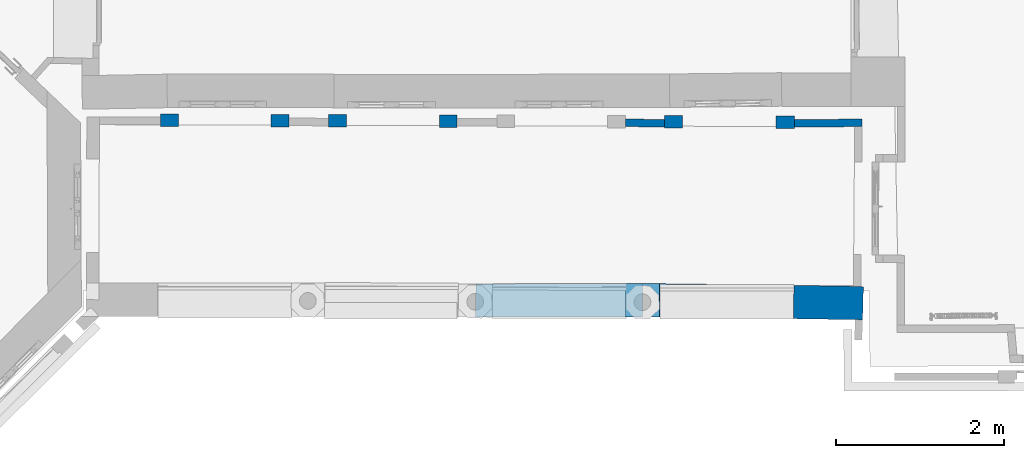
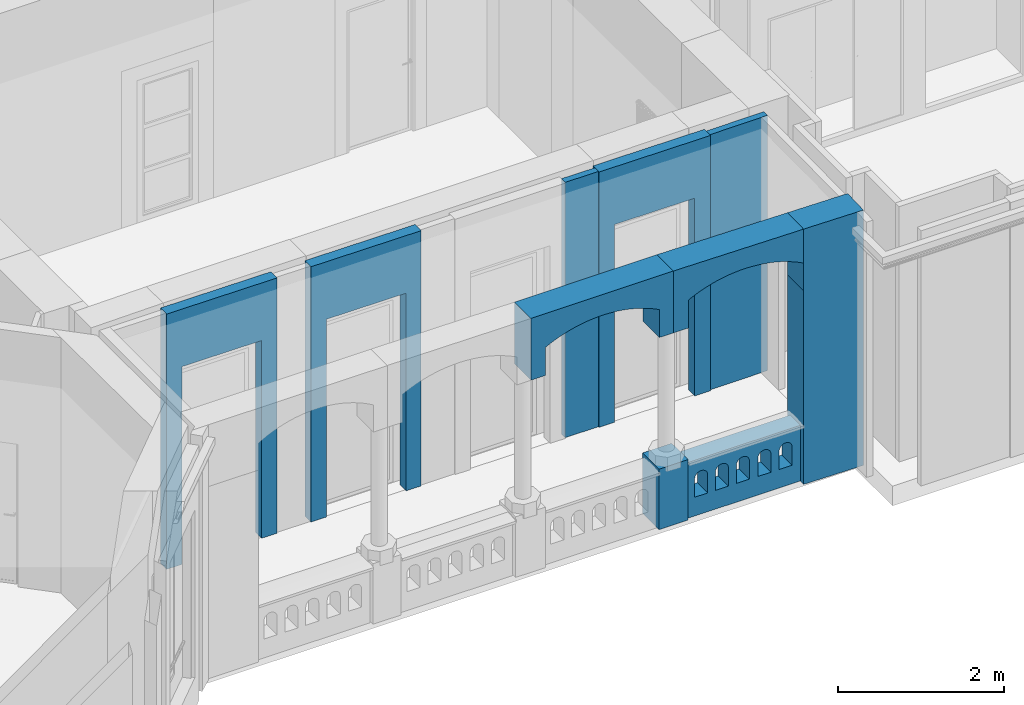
# One storey, part 6 of 66: 10 walls, 10 openings.
"""IFC2X3 building model written with IfcOpenShell, lengths in centimetres."""

from ifc_helpers import new_model, entity, si_unit, converted_unit, point, direction, frame, frame_2d, origin, origin_with_axes, origin_2d_with_axis, place, context, subcontext, project, spatial, polyline, circle_curve, trimmed, segment, composite_curve, rectangle, outline, extrude, clip, bounded_halfspace, shape, material, layer, layer_set, layer_usage, type_object, element, save


model = new_model("IFC2X3")

# Units and contexts
model_context = context("Model", 3, precision=0.0001, world=origin(), true_north=direction((0.225632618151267, 0.974212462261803, 0.0)))
body_context = subcontext(model_context, "Body", "Model", "MODEL_VIEW")
footprint_context = subcontext(model_context, "FootPrint", "Model", "MODEL_VIEW")
profile_context = subcontext(model_context, "Profile", "Model", "MODEL_VIEW")
ifc_project = project(units=[si_unit("LENGTHUNIT", "METRE", prefix="CENTI"), si_unit("AREAUNIT", "SQUARE_METRE", prefix="CENTI"), si_unit("VOLUMEUNIT", "CUBIC_METRE", prefix="CENTI"), converted_unit("PLANEANGLEUNIT", "DEGREE", entity("IfcRatioMeasure", 0.0174532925), si_unit("PLANEANGLEUNIT", "RADIAN"), dimensions=[0, 0, 0, 0, 0, 0, 0])], contexts=[model_context])

# Site, building, storey
site_placement = place(None, origin_with_axes())
site = spatial("IfcSite", under=ifc_project, at=site_placement, Name="Default Site", CompositionType="ELEMENT")
building_placement = place(site_placement, origin_with_axes())
building = spatial("IfcBuilding", under=site, at=building_placement, Name="Default Building", CompositionType="ELEMENT")
storey_placement = place(building_placement, frame((0.0, 0.0, 477.795358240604), z_axis=(0.0, 0.0, 1.0), x_axis=(1.0, 0.0, 0.0)))
storey = spatial("IfcBuildingStorey", under=building, at=storey_placement, Name="Niveau 1", CompositionType="ELEMENT", Elevation=477.795358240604)

# Wall
ifc_material = material(Name="<aucun>")
ifc_layer_1 = layer(ifc_material, 39.8)
ifc_layer_set_1 = layer_set([ifc_layer_1], Name="default")
ifc_layer_usage_1 = layer_usage(ifc_layer_set_1, "AXIS2", "POSITIVE", -19.9)
wall_type_1 = type_object("IfcWallType", Name="default 398", PredefinedType="NOTDEFINED", material=ifc_layer_set_1)
wall_1_placement = place(storey_placement, frame((242.59223032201, -954.923629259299, 0.0128503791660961), z_axis=(0.0, 0.0, 1.0), x_axis=(-0.999867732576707, 0.0162639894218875, 0.0)))
element("IfcWallStandardCase", 1, at=wall_1_placement, inside=storey, type_object=wall_type_1, material=ifc_layer_usage_1, Name="Enveloppe 449511", context=body_context, shape_type="SweptSolid", body=[
    extrude(outline(polyline([(73.5764492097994, 19.8999999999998), (-9.02079282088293, 19.8999999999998), (-9.40243659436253, -19.523567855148), (-6.26328268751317, -19.5539567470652), (-6.26064006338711, -19.9), (73.5764492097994, -19.9), (73.5764492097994, 19.8999999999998)])), frame((0.0, 0.0, -2.66453525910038e-13), z_axis=(0.0, 0.0, 1.0), x_axis=(1.0, 0.0, 0.0)), (0.0, 0.0, 1.0), 376.102165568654),
])

# Wall, opening
ifc_layer_usage_2 = layer_usage(ifc_layer_set_1, "AXIS2", "POSITIVE", -19.9)
wall_2_placement = place(storey_placement, frame((-210.275214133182, -951.945610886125, 285.0), z_axis=(0.0, 0.0, 1.0), x_axis=(0.999997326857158, 0.00231220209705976, 0.0)))
wall_2 = element("IfcWallStandardCase", 2, at=wall_2_placement, inside=storey, type_object=wall_type_1, material=ifc_layer_usage_2, Name="Enveloppe 442124", context=body_context, shape_type="SweptSolid", body=[
    extrude(outline(polyline([(-0.139279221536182, -19.8990241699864), (198.90687949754, -19.8999999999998), (198.90687949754, 19.9000000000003), (0.139564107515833, 19.9000000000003), (-0.139279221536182, -19.8990241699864)])), frame((0.0, 0.0, 2.66453525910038e-13), z_axis=(0.0, 0.0, 1.0), x_axis=(1.0, 0.0, 0.0)), (0.0, 0.0, 1.0), 91.1150159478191),
])
opening_1_placement = place(wall_2_placement, frame((20.0758893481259, 0.0, 0.0), z_axis=(0.0, 0.0, 1.0), x_axis=(1.0, -5.8416813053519e-16, 0.0)))
cartesian_point_1 = entity("IfcCartesianPoint", [0.0, 0.0, 41.2107423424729])
cartesian_point_2 = entity("IfcCartesianPoint", [159.18370357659, 0.0, 41.2107423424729])
cartesian_point_3 = entity("IfcCartesianPoint", [159.18370357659, 19.9])
element("IfcOpeningElement", 3, at=opening_1_placement, cuts=wall_2, Name="Baie 442171", ObjectType="Opening", shapes=[
    shape(body_context, "Body", "SweptSolid", [extrude(outline(composite_curve([segment(polyline([(-2.22044604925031e-14, 41.2107423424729), (-2.22044604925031e-14, 8.88178419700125e-14), (159.18370357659, 8.88178419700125e-14), (159.18370357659, 41.2107423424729)]), True, "CONTINUOUS"), segment(trimmed(circle_curve(frame_2d((79.5918517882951, -111.07221367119), x_axis=(1.0, 0.0)), 171.828290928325), [point((159.18370357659, 41.2107423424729))], [point((-2.22044604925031e-14, 41.2107423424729))], True, "CARTESIAN"), True, "CONTINUOUS")], self_intersect=False)), frame((0.0, 29.9, 0.0), z_axis=(0.0, -1.0, 0.0), x_axis=(1.0, 0.0, 0.0)), (0.0, 0.0, 1.0), 59.8)]),
    shape(profile_context, "Profile", "GeometricCurveSet", [entity("IfcGeometricCurveSet", [entity("IfcCompositeCurve", [entity("IfcCompositeCurveSegment", "CONTINUOUS", True, entity("IfcPolyline", [cartesian_point_1, entity("IfcCartesianPoint", [0.0, 0.0, 8.88178419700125e-14]), entity("IfcCartesianPoint", [159.18370357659, 0.0, 8.88178419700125e-14]), cartesian_point_2])), entity("IfcCompositeCurveSegment", "CONTINUOUS", True, entity("IfcTrimmedCurve", entity("IfcCircle", entity("IfcAxis2Placement3D", entity("IfcCartesianPoint", [79.5918517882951, 0.0, -111.07221367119]), entity("IfcDirection", [0.0, -1.0, 0.0]), entity("IfcDirection", [-1.0, 0.0, 0.0])), 171.828290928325), [cartesian_point_2], [cartesian_point_1], True, "CARTESIAN"))], False)])]),
    shape(footprint_context, "FootPrint", "GeometricCurveSet", [entity("IfcGeometricCurveSet", [entity("IfcPolyline", [cartesian_point_3, entity("IfcCartesianPoint", [-2.22044604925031e-14, 19.9]), entity("IfcCartesianPoint", [-2.22044604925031e-14, -19.9]), entity("IfcCartesianPoint", [159.18370357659, -19.9]), cartesian_point_3])])]),
])

ifc_layer_usage_3 = layer_usage(ifc_layer_set_1, "AXIS2", "POSITIVE", -19.9)
wall_3_placement = place(storey_placement, frame((168.941519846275, -953.725762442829, 285.0), z_axis=(0.0, 0.0, 1.0), x_axis=(-0.999922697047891, 0.0124338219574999, 0.0)))
wall_3 = element("IfcWallStandardCase", 4, at=wall_3_placement, inside=storey, type_object=wall_type_1, material=ifc_layer_usage_3, Name="Enveloppe 442125", context=body_context, shape_type="SweptSolid", body=[
    extrude(outline(polyline([(180.617741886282, -19.8957804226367), (180.030857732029, 19.9), (-0.00777367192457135, 19.9000297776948), (-0.160229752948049, -19.8996782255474), (180.617741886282, -19.8957804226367)])), frame((0.0, 0.0, 2.66453525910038e-13), z_axis=(0.0, 0.0, 1.0), x_axis=(1.0, 0.0, 0.0)), (0.0, 0.0, 1.0), 91.1150159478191),
])
opening_2_placement = place(wall_3_placement, frame((0.0, 0.0, 0.0), z_axis=(0.0, 0.0, 1.0), x_axis=(-1.0, 3.38271077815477e-16, 0.0)))
cartesian_point_4 = entity("IfcCartesianPoint", [0.0, 0.0, 41.2107423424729])
cartesian_point_5 = entity("IfcCartesianPoint", [-159.356180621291, 1.77635683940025e-13, 41.2107423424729])
cartesian_point_6 = entity("IfcCartesianPoint", [-159.356180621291, -19.9])
element("IfcOpeningElement", 5, at=opening_2_placement, cuts=wall_3, Name="Baie 442172", ObjectType="Opening", shapes=[
    shape(body_context, "Body", "SweptSolid", [extrude(outline(composite_curve([segment(polyline([(0.0, 41.2107423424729), (0.0, 0.0), (159.356180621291, 0.0), (159.356180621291, 41.2107423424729)]), True, "CONTINUOUS"), segment(trimmed(circle_curve(frame_2d((79.6780903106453, -111.237213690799), x_axis=(1.0, 0.0)), 172.014468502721), [point((159.356180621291, 41.2107423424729))], [point((0.0, 41.2107423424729))], True, "CARTESIAN"), True, "CONTINUOUS")], self_intersect=False)), frame((0.0, -29.9, 0.0), z_axis=(0.0, 1.0, 0.0), x_axis=(-1.0, 0.0, 0.0)), (0.0, 0.0, 1.0), 59.8)]),
    shape(profile_context, "Profile", "GeometricCurveSet", [entity("IfcGeometricCurveSet", [entity("IfcCompositeCurve", [entity("IfcCompositeCurveSegment", "CONTINUOUS", True, entity("IfcPolyline", [cartesian_point_4, entity("IfcCartesianPoint", [0.0, 0.0, 0.0]), entity("IfcCartesianPoint", [-159.356180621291, 1.77635683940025e-13, 0.0]), cartesian_point_5])), entity("IfcCompositeCurveSegment", "CONTINUOUS", True, entity("IfcTrimmedCurve", entity("IfcCircle", entity("IfcAxis2Placement3D", entity("IfcCartesianPoint", [-79.6780903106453, 0.0, -111.237213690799]), entity("IfcDirection", [1.11470846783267e-15, 1.0, 4.53927812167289e-15]), entity("IfcDirection", [1.0, -1.11470846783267e-15, 0.0])), 172.014468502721), [cartesian_point_5], [cartesian_point_4], True, "CARTESIAN"))], False)])]),
    shape(footprint_context, "FootPrint", "GeometricCurveSet", [entity("IfcGeometricCurveSet", [entity("IfcPolyline", [cartesian_point_6, entity("IfcCartesianPoint", [0.0, -19.9000000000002]), entity("IfcCartesianPoint", [0.0, 19.9000000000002]), entity("IfcCartesianPoint", [-159.356180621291, 19.9]), cartesian_point_6])])]),
])

# Walls
ifc_layer_usage_4 = layer_usage(ifc_layer_set_1, "AXIS2", "POSITIVE", -19.9)
wall_4_placement = place(storey_placement, frame((9.13786153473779, -951.500180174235, 1.99999999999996), z_axis=(0.0, 0.0, 1.0), x_axis=(-0.999999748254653, 0.000709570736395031, 0.0)))
element("IfcWallStandardCase", 6, at=wall_4_placement, inside=storey, type_object=wall_type_1, material=ifc_layer_usage_4, Name="Enveloppe 435701", context=body_context, shape_type="Clipping", body=[
    clip(extrude(outline(polyline([(40.5895792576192, -12.2818072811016), (40.6895792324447, -12.281736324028), (40.6719109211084, 12.6182574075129), (40.5895792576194, 12.618198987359), (40.5895792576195, 19.8999999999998), (20.453903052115, 19.9000000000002), (-7.91033905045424e-14, 19.9000000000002), (9.99200722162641e-14, -19.9), (20.4539030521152, -19.9), (40.5895792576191, -19.9000000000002), (40.5895792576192, -12.2818072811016)])), origin_with_axes(), (0.0, 0.0, 1.0), 89.1150159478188), bounded_halfspace(frame((40.6895792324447, -12.281736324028, 80.1150159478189), z_axis=(0.0, 0.0, -1.0), x_axis=(-0.000709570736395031, 0.999999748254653, 0.0)), True, frame((40.6895792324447, -12.281736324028, 80.1150159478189), z_axis=(0.0, 0.0, 1.0), x_axis=(1.0, 0.0, 0.0)), polyline([(-0.0999999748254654, -7.09570736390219e-05), (5.55111512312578e-15, 0.0), (-0.0176683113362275, 24.8999937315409), (-0.0999999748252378, 24.899935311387), (-0.0999999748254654, -7.09570736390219e-05)]))),
])
ifc_layer_2 = layer(ifc_material, 9.0)
ifc_layer_set_2 = layer_set([ifc_layer_2], Name="default")
ifc_layer_usage_5 = layer_usage(ifc_layer_set_2, "AXIS2", "POSITIVE", -4.5)
wall_type_2 = type_object("IfcWallType", Name="default 90", PredefinedType="NOTDEFINED", material=ifc_layer_set_2)
wall_5_placement = place(storey_placement, frame((15.1884766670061, -740.354846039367, 0.0128503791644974), z_axis=(0.0, 0.0, 1.0), x_axis=(-0.999971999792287, 0.00748329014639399, 0.0)))
element("IfcWallStandardCase", 7, at=wall_5_placement, inside=storey, type_object=wall_type_2, material=ifc_layer_usage_5, Name="Enveloppe 424003", context=body_context, shape_type="SweptSolid", body=[
    extrude(outline(polyline([(46.5244206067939, 4.49999999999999), (-0.0329658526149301, 4.50000000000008), (-1.66533453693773e-13, -4.50000000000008), (46.5573864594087, -4.50000000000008), (46.5244206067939, 4.49999999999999)])), frame((0.0, 0.0, 1.77635683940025e-13), z_axis=(0.0, 0.0, 1.0), x_axis=(1.0, 0.0, 0.0)), (0.0, 0.0, 1.0), 376.102165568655),
])
ifc_layer_usage_6 = layer_usage(ifc_layer_set_2, "AXIS2", "POSITIVE", -4.5)
wall_6_placement = place(storey_placement, frame((170.28837794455, -740.585787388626, 0.012850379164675), z_axis=(0.0, 0.0, 1.0), x_axis=(0.999968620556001, 0.00792198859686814, 0.0)))
element("IfcWallStandardCase", 8, at=wall_6_placement, inside=storey, type_object=wall_type_2, material=ifc_layer_usage_6, Name="Enveloppe 424066", context=body_context, shape_type="SweptSolid", body=[
    extrude(outline(polyline([(-0.105688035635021, -4.49999999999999), (80.4994559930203, -4.50000000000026), (80.6484217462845, 4.49999999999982), (1.55431223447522e-13, 4.49999999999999), (-0.105688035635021, -4.49999999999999)])), frame((0.0, 0.0, -1.77635683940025e-13), z_axis=(0.0, 0.0, 1.0), x_axis=(1.0, 0.0, 0.0)), (0.0, 0.0, 1.0), 376.102165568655),
])

# Wall, openings
ifc_layer_3 = layer(ifc_material, 24.9)
ifc_layer_set_3 = layer_set([ifc_layer_3], Name="default")
ifc_layer_usage_7 = layer_usage(ifc_layer_set_3, "AXIS2", "POSITIVE", -12.45)
wall_type_3 = type_object("IfcWallType", Name="default 249", PredefinedType="NOTDEFINED", material=ifc_layer_set_3)
wall_7_placement = place(storey_placement, frame((9.14559763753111, -953.04767186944, 0.0128503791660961), z_axis=(0.0, 0.0, 1.0), x_axis=(1.0, 0.0, 0.0)))
wall_7 = element("IfcWallStandardCase", 9, at=wall_7_placement, inside=storey, type_object=wall_type_3, material=ifc_layer_usage_7, Name="Enveloppe 449481", context=body_context, shape_type="Clipping", body=[
    clip(extrude(outline(polyline([(-0.0176683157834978, -12.4499999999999), (159.680676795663, -12.4499999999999), (160.085703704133, 12.4499999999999), (0.0, 12.4499999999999), (-0.0176683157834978, -12.4499999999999)])), frame((0.0, 0.0, -1.77635683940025e-13), z_axis=(0.0, 0.0, 1.0), x_axis=(1.0, 0.0, 0.0)), (0.0, 0.0, 1.0), 82.1021655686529), bounded_halfspace(frame((5.32907051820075e-13, 12.4499999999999, 1.98714962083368), z_axis=(0.0, 0.0, 1.0), x_axis=(-2.14018896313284e-14, -1.0, 0.0)), True, frame((5.32907051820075e-13, 12.4499999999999, 1.98714962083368), z_axis=(0.0, 0.0, 1.0), x_axis=(1.0, 0.0, 0.0)), polyline([(-0.0176683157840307, -24.8999999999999), (0.0, 0.0), (-5.32907051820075e-13, -24.8999999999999), (-0.0176683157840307, -24.8999999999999)]))),
])
opening_3_placement = place(wall_7_placement, frame((12.4256332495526, 0.0, 27.6595103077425), z_axis=(0.0, 0.0, 1.0), x_axis=(-1.0, 0.0, 0.0)))
cartesian_point_7 = entity("IfcCartesianPoint", [-2.77555756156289e-15, 0.0, 27.09648889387])
cartesian_point_8 = entity("IfcCartesianPoint", [-18.1669635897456, 0.0, 27.09648889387])
cartesian_point_9 = entity("IfcCartesianPoint", [-18.1669635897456, -12.4499999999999])
element("IfcOpeningElement", 10, at=opening_3_placement, cuts=wall_7, Name="Baie 449483", ObjectType="Opening", shapes=[
    shape(body_context, "Body", "SweptSolid", [extrude(outline(composite_curve([segment(polyline([(2.77555756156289e-15, 27.09648889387), (0.0, 8.88178419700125e-14), (18.1669635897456, 8.88178419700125e-14), (18.1669635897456, 27.09648889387)]), True, "CONTINUOUS"), segment(trimmed(circle_curve(frame_2d((9.08348179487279, 27.0964888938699), x_axis=(1.0, 0.0)), 9.08348179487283), [point((18.1669635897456, 27.09648889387))], [point((2.77555756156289e-15, 27.09648889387))], True, "CARTESIAN"), True, "CONTINUOUS")], self_intersect=False)), frame((0.0, -22.45, 0.0), z_axis=(0.0, 1.0, 0.0), x_axis=(-1.0, 0.0, 0.0)), (0.0, 0.0, 1.0), 44.9)]),
    shape(profile_context, "Profile", "GeometricCurveSet", [entity("IfcGeometricCurveSet", [entity("IfcCompositeCurve", [entity("IfcCompositeCurveSegment", "CONTINUOUS", True, entity("IfcPolyline", [cartesian_point_7, entity("IfcCartesianPoint", [0.0, 0.0, 8.88178419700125e-14]), entity("IfcCartesianPoint", [-18.1669635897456, 0.0, 8.88178419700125e-14]), cartesian_point_8])), entity("IfcCompositeCurveSegment", "CONTINUOUS", True, entity("IfcTrimmedCurve", entity("IfcCircle", entity("IfcAxis2Placement3D", entity("IfcCartesianPoint", [-9.08348179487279, 0.0, 27.0964888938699]), entity("IfcDirection", [0.0, 1.0, 0.0]), entity("IfcDirection", [1.0, 0.0, 0.0])), 9.08348179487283), [cartesian_point_8], [cartesian_point_7], True, "CARTESIAN"))], False)])]),
    shape(footprint_context, "FootPrint", "GeometricCurveSet", [entity("IfcGeometricCurveSet", [entity("IfcPolyline", [cartesian_point_9, entity("IfcCartesianPoint", [3.60822483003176e-14, -12.4499999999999]), entity("IfcCartesianPoint", [3.60822483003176e-14, 12.4499999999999]), entity("IfcCartesianPoint", [-18.1669635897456, 12.4499999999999]), cartesian_point_9])])]),
])
opening_4_placement = place(wall_7_placement, frame((41.3696091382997, 0.0, 27.6595103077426), z_axis=(0.0, 0.0, 1.0), x_axis=(-1.0, 0.0, 0.0)))
cartesian_point_10 = entity("IfcCartesianPoint", [0.0, 0.0, 27.09648889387])
cartesian_point_11 = entity("IfcCartesianPoint", [-18.1669635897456, 0.0, 27.09648889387])
cartesian_point_12 = entity("IfcCartesianPoint", [-18.1669635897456, -12.4499999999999])
element("IfcOpeningElement", 11, at=opening_4_placement, cuts=wall_7, Name="Baie 449484", ObjectType="Opening", shapes=[
    shape(body_context, "Body", "SweptSolid", [extrude(outline(composite_curve([segment(polyline([(0.0, 27.09648889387), (0.0, 8.88178419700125e-14), (18.1669635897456, 8.88178419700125e-14), (18.1669635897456, 27.09648889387)]), True, "CONTINUOUS"), segment(trimmed(circle_curve(frame_2d((9.08348179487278, 27.09648889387), x_axis=(1.0, 0.0)), 9.08348179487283), [point((18.1669635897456, 27.09648889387))], [point((0.0, 27.09648889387))], True, "CARTESIAN"), True, "CONTINUOUS")], self_intersect=False)), frame((0.0, -22.45, 0.0), z_axis=(0.0, 1.0, 0.0), x_axis=(-1.0, 0.0, 0.0)), (0.0, 0.0, 1.0), 44.9)]),
    shape(profile_context, "Profile", "GeometricCurveSet", [entity("IfcGeometricCurveSet", [entity("IfcCompositeCurve", [entity("IfcCompositeCurveSegment", "CONTINUOUS", True, entity("IfcPolyline", [cartesian_point_10, entity("IfcCartesianPoint", [0.0, 0.0, 8.88178419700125e-14]), entity("IfcCartesianPoint", [-18.1669635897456, 0.0, 8.88178419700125e-14]), cartesian_point_11])), entity("IfcCompositeCurveSegment", "CONTINUOUS", True, entity("IfcTrimmedCurve", entity("IfcCircle", entity("IfcAxis2Placement3D", entity("IfcCartesianPoint", [-9.08348179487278, 0.0, 27.09648889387]), entity("IfcDirection", [0.0, 1.0, 0.0]), entity("IfcDirection", [1.0, 0.0, 0.0])), 9.08348179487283), [cartesian_point_11], [cartesian_point_10], True, "CARTESIAN"))], False)])]),
    shape(footprint_context, "FootPrint", "GeometricCurveSet", [entity("IfcGeometricCurveSet", [entity("IfcPolyline", [cartesian_point_12, entity("IfcCartesianPoint", [3.33066907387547e-14, -12.4499999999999]), entity("IfcCartesianPoint", [3.33066907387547e-14, 12.4499999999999]), entity("IfcCartesianPoint", [-18.1669635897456, 12.4499999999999]), cartesian_point_12])])]),
])
opening_5_placement = place(wall_7_placement, frame((100.525714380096, 0.0, 27.3778886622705), z_axis=(0.0, 0.0, 1.0), x_axis=(-1.0, 0.0, 0.0)))
cartesian_point_13 = entity("IfcCartesianPoint", [0.0, 0.0, 27.09648889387])
cartesian_point_14 = entity("IfcCartesianPoint", [-18.1669635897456, 0.0, 27.09648889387])
cartesian_point_15 = entity("IfcCartesianPoint", [-18.1669635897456, -12.4499999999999])
element("IfcOpeningElement", 12, at=opening_5_placement, cuts=wall_7, Name="Baie 449486", ObjectType="Opening", shapes=[
    shape(body_context, "Body", "SweptSolid", [extrude(outline(composite_curve([segment(polyline([(0.0, 27.09648889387), (0.0, 8.88178419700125e-14), (18.1669635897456, 8.88178419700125e-14), (18.1669635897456, 27.09648889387)]), True, "CONTINUOUS"), segment(trimmed(circle_curve(frame_2d((9.08348179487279, 27.09648889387), x_axis=(1.0, 0.0)), 9.08348179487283), [point((18.1669635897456, 27.09648889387))], [point((0.0, 27.09648889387))], True, "CARTESIAN"), True, "CONTINUOUS")], self_intersect=False)), frame((0.0, -22.45, 0.0), z_axis=(0.0, 1.0, 0.0), x_axis=(-1.0, 0.0, 0.0)), (0.0, 0.0, 1.0), 44.9)]),
    shape(profile_context, "Profile", "GeometricCurveSet", [entity("IfcGeometricCurveSet", [entity("IfcCompositeCurve", [entity("IfcCompositeCurveSegment", "CONTINUOUS", True, entity("IfcPolyline", [cartesian_point_13, entity("IfcCartesianPoint", [0.0, 0.0, 8.88178419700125e-14]), entity("IfcCartesianPoint", [-18.1669635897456, 0.0, 8.88178419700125e-14]), cartesian_point_14])), entity("IfcCompositeCurveSegment", "CONTINUOUS", True, entity("IfcTrimmedCurve", entity("IfcCircle", entity("IfcAxis2Placement3D", entity("IfcCartesianPoint", [-9.08348179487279, 0.0, 27.09648889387]), entity("IfcDirection", [0.0, 1.0, 0.0]), entity("IfcDirection", [1.0, 0.0, 0.0])), 9.08348179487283), [cartesian_point_14], [cartesian_point_13], True, "CARTESIAN"))], False)])]),
    shape(footprint_context, "FootPrint", "GeometricCurveSet", [entity("IfcGeometricCurveSet", [entity("IfcPolyline", [cartesian_point_15, entity("IfcCartesianPoint", [4.44089209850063e-14, -12.4499999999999]), entity("IfcCartesianPoint", [4.44089209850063e-14, 12.4499999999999]), entity("IfcCartesianPoint", [-18.1669635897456, 12.4499999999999]), cartesian_point_15])])]),
])
opening_6_placement = place(wall_7_placement, frame((70.5599167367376, 0.0, 27.6595103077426), z_axis=(0.0, 0.0, 1.0), x_axis=(-1.0, 0.0, 0.0)))
cartesian_point_16 = entity("IfcCartesianPoint", [0.0, 0.0, 27.09648889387])
cartesian_point_17 = entity("IfcCartesianPoint", [-18.1669635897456, 0.0, 27.09648889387])
cartesian_point_18 = entity("IfcCartesianPoint", [-18.1669635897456, -12.4499999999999])
element("IfcOpeningElement", 13, at=opening_6_placement, cuts=wall_7, Name="Baie 449485", ObjectType="Opening", shapes=[
    shape(body_context, "Body", "SweptSolid", [extrude(outline(composite_curve([segment(polyline([(0.0, 27.09648889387), (0.0, 8.88178419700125e-14), (18.1669635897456, 8.88178419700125e-14), (18.1669635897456, 27.09648889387)]), True, "CONTINUOUS"), segment(trimmed(circle_curve(frame_2d((9.08348179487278, 27.09648889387), x_axis=(1.0, 0.0)), 9.08348179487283), [point((18.1669635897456, 27.09648889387))], [point((0.0, 27.09648889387))], True, "CARTESIAN"), True, "CONTINUOUS")], self_intersect=False)), frame((0.0, -22.45, 0.0), z_axis=(0.0, 1.0, 0.0), x_axis=(-1.0, 0.0, 0.0)), (0.0, 0.0, 1.0), 44.9)]),
    shape(profile_context, "Profile", "GeometricCurveSet", [entity("IfcGeometricCurveSet", [entity("IfcCompositeCurve", [entity("IfcCompositeCurveSegment", "CONTINUOUS", True, entity("IfcPolyline", [cartesian_point_16, entity("IfcCartesianPoint", [0.0, 0.0, 8.88178419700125e-14]), entity("IfcCartesianPoint", [-18.1669635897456, 0.0, 8.88178419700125e-14]), cartesian_point_17])), entity("IfcCompositeCurveSegment", "CONTINUOUS", True, entity("IfcTrimmedCurve", entity("IfcCircle", entity("IfcAxis2Placement3D", entity("IfcCartesianPoint", [-9.08348179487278, 0.0, 27.09648889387]), entity("IfcDirection", [0.0, 1.0, 0.0]), entity("IfcDirection", [1.0, 0.0, 0.0])), 9.08348179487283), [cartesian_point_17], [cartesian_point_16], True, "CARTESIAN"))], False)])]),
    shape(footprint_context, "FootPrint", "GeometricCurveSet", [entity("IfcGeometricCurveSet", [entity("IfcPolyline", [cartesian_point_18, entity("IfcCartesianPoint", [4.44089209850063e-14, -12.4499999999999]), entity("IfcCartesianPoint", [4.44089209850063e-14, 12.4499999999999]), entity("IfcCartesianPoint", [-18.1669635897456, 12.4499999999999]), cartesian_point_18])])]),
])
opening_7_placement = place(wall_7_placement, frame((130.114399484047, 0.0, 27.3778522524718), z_axis=(0.0, 0.0, 1.0), x_axis=(-1.0, 0.0, 0.0)))
cartesian_point_19 = entity("IfcCartesianPoint", [0.0, 0.0, 27.09648889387])
cartesian_point_20 = entity("IfcCartesianPoint", [-18.1669635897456, 0.0, 27.09648889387])
cartesian_point_21 = entity("IfcCartesianPoint", [-18.1669635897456, -12.4499999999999])
element("IfcOpeningElement", 14, at=opening_7_placement, cuts=wall_7, Name="Baie 449487", ObjectType="Opening", shapes=[
    shape(body_context, "Body", "SweptSolid", [extrude(outline(composite_curve([segment(polyline([(0.0, 27.09648889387), (0.0, 8.88178419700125e-14), (18.1669635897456, 8.88178419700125e-14), (18.1669635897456, 27.09648889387)]), True, "CONTINUOUS"), segment(trimmed(circle_curve(frame_2d((9.08348179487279, 27.09648889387), x_axis=(1.0, 0.0)), 9.08348179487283), [point((18.1669635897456, 27.09648889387))], [point((0.0, 27.09648889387))], True, "CARTESIAN"), True, "CONTINUOUS")], self_intersect=False)), frame((0.0, -22.45, 0.0), z_axis=(0.0, 1.0, 0.0), x_axis=(-1.0, 0.0, 0.0)), (0.0, 0.0, 1.0), 44.9)]),
    shape(profile_context, "Profile", "GeometricCurveSet", [entity("IfcGeometricCurveSet", [entity("IfcCompositeCurve", [entity("IfcCompositeCurveSegment", "CONTINUOUS", True, entity("IfcPolyline", [cartesian_point_19, entity("IfcCartesianPoint", [0.0, 0.0, 8.88178419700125e-14]), entity("IfcCartesianPoint", [-18.1669635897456, 0.0, 8.88178419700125e-14]), cartesian_point_20])), entity("IfcCompositeCurveSegment", "CONTINUOUS", True, entity("IfcTrimmedCurve", entity("IfcCircle", entity("IfcAxis2Placement3D", entity("IfcCartesianPoint", [-9.08348179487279, 0.0, 27.09648889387]), entity("IfcDirection", [0.0, 1.0, 0.0]), entity("IfcDirection", [1.0, 0.0, 0.0])), 9.08348179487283), [cartesian_point_20], [cartesian_point_19], True, "CARTESIAN"))], False)])]),
    shape(footprint_context, "FootPrint", "GeometricCurveSet", [entity("IfcGeometricCurveSet", [entity("IfcPolyline", [cartesian_point_21, entity("IfcCartesianPoint", [4.44089209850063e-14, -12.4499999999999]), entity("IfcCartesianPoint", [4.44089209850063e-14, 12.4499999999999]), entity("IfcCartesianPoint", [-18.1669635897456, 12.4499999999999]), cartesian_point_21])])]),
])

# Wall, opening
ifc_layer_4 = layer(ifc_material, 15.0)
ifc_layer_set_4 = layer_set([ifc_layer_4], Name="default")
ifc_layer_usage_8 = layer_usage(ifc_layer_set_4, "AXIS2", "POSITIVE", -7.5)
wall_type_4 = type_object("IfcWallType", Name="default 150", PredefinedType="NOTDEFINED", material=ifc_layer_set_4)
wall_8_placement = place(storey_placement, frame((-232.534934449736, -738.165525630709, 0.0128503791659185), z_axis=(0.0, 0.0, 1.0), x_axis=(-0.99999081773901, 0.00428537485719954, 0.0)))
wall_8 = element("IfcWallStandardCase", 15, at=wall_8_placement, inside=storey, type_object=wall_type_4, material=ifc_layer_usage_8, Name="Enveloppe 425975", context=body_context, shape_type="SweptSolid", body=[
    extrude(rectangle(XDim=15.0, YDim=153.284782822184, at=origin_2d_with_axis()), frame((76.6423914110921, -3.19664961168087e-06, 1.77635683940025e-13), z_axis=(0.0, 0.0, 1.0), x_axis=(2.51534904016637e-17, -1.0, 0.0)), (0.0, 0.0, 1.0), 376.102165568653),
])
opening_8_placement = place(wall_8_placement, frame((21.1612092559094, -1.13686837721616e-13, 8.88178419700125e-14), z_axis=(0.0, 0.0, 1.0), x_axis=(1.0, -1.40339129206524e-15, 0.0)))
cartesian_point_22 = entity("IfcCartesianPoint", [0.0, 8.88178419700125e-14, 291.300284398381])
cartesian_point_23 = entity("IfcCartesianPoint", [110.796722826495, 7.50000000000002])
element("IfcOpeningElement", 16, at=opening_8_placement, cuts=wall_8, Name="Baie 442184", ObjectType="Opening", shapes=[
    shape(body_context, "Body", "SweptSolid", [extrude(outline(polyline([(-4.44089209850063e-14, 291.300284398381), (-4.44089209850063e-14, 0.0), (110.796722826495, 0.0), (110.796722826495, 291.300284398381), (-4.44089209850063e-14, 291.300284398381)])), frame((0.0, 17.5, 0.0), z_axis=(0.0, -1.0, 0.0), x_axis=(1.0, 0.0, 0.0)), (0.0, 0.0, 1.0), 35.0)]),
    shape(profile_context, "Profile", "GeometricCurveSet", [entity("IfcGeometricCurveSet", [entity("IfcPolyline", [cartesian_point_22, entity("IfcCartesianPoint", [0.0, 8.88178419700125e-14, 0.0]), entity("IfcCartesianPoint", [110.796722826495, 0.0, 0.0]), entity("IfcCartesianPoint", [110.796722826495, 0.0, 291.300284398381]), cartesian_point_22])])]),
    shape(footprint_context, "FootPrint", "GeometricCurveSet", [entity("IfcGeometricCurveSet", [entity("IfcPolyline", [cartesian_point_23, entity("IfcCartesianPoint", [-4.44089209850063e-14, 7.50000000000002]), entity("IfcCartesianPoint", [0.0, -7.49999999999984]), entity("IfcCartesianPoint", [110.796722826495, -7.49999999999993]), cartesian_point_23])])]),
])

ifc_layer_usage_9 = layer_usage(ifc_layer_set_4, "AXIS2", "POSITIVE", -7.5)
wall_9_placement = place(storey_placement, frame((-432.813860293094, -737.307247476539, 0.0128503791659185), z_axis=(0.0, 0.0, 1.0), x_axis=(-0.99999081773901, 0.00428537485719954, 0.0)))
wall_9 = element("IfcWallStandardCase", 17, at=wall_9_placement, inside=storey, type_object=wall_type_4, material=ifc_layer_usage_9, Name="Enveloppe 425890", context=body_context, shape_type="SweptSolid", body=[
    extrude(rectangle(XDim=14.9999999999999, YDim=153.431952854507, at=origin_2d_with_axis()), frame((76.7159764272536, 0.0, 0.0), z_axis=(0.0, 0.0, 1.0), x_axis=(-2.51534904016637e-17, -1.0, 0.0)), (0.0, 0.0, 1.0), 376.102165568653),
])
opening_9_placement = place(wall_9_placement, frame((21.6847177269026, -1.13686837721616e-13, 0.0), z_axis=(0.0, 0.0, 1.0), x_axis=(1.0, -1.33747179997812e-15, 0.0)))
cartesian_point_24 = entity("IfcCartesianPoint", [0.0, 0.0, 291.300284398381])
cartesian_point_25 = entity("IfcCartesianPoint", [110.300195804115, 7.50000000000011])
element("IfcOpeningElement", 18, at=opening_9_placement, cuts=wall_9, Name="Baie 442183", ObjectType="Opening", shapes=[
    shape(body_context, "Body", "SweptSolid", [extrude(outline(polyline([(0.0, 291.300284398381), (0.0, 0.0), (110.300195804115, 0.0), (110.300195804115, 291.300284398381), (0.0, 291.300284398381)])), frame((0.0, 17.5, 0.0), z_axis=(0.0, -1.0, 0.0), x_axis=(1.0, 0.0, 0.0)), (0.0, 0.0, 1.0), 35.0)]),
    shape(profile_context, "Profile", "GeometricCurveSet", [entity("IfcGeometricCurveSet", [entity("IfcPolyline", [cartesian_point_24, entity("IfcCartesianPoint", [0.0, 0.0, 0.0]), entity("IfcCartesianPoint", [110.300195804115, 1.77635683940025e-13, 0.0]), entity("IfcCartesianPoint", [110.300195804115, 1.77635683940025e-13, 291.300284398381]), cartesian_point_24])])]),
    shape(footprint_context, "FootPrint", "GeometricCurveSet", [entity("IfcGeometricCurveSet", [entity("IfcPolyline", [cartesian_point_25, entity("IfcCartesianPoint", [0.0, 7.50000000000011]), entity("IfcCartesianPoint", [0.0, -7.49999999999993]), entity("IfcCartesianPoint", [110.300195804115, -7.49999999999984]), cartesian_point_25])])]),
])

ifc_layer_usage_10 = layer_usage(ifc_layer_set_4, "AXIS2", "POSITIVE", -7.5)
wall_10_placement = place(storey_placement, frame((170.24050710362, -739.284939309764, 0.0128503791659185), z_axis=(0.0, 0.0, 1.0), x_axis=(-0.999992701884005, 0.00382049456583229, 0.0)))
wall_10 = element("IfcWallStandardCase", 19, at=wall_10_placement, inside=storey, type_object=wall_type_4, material=ifc_layer_usage_10, Name="Enveloppe 426162", context=body_context, shape_type="SweptSolid", body=[
    extrude(rectangle(XDim=14.9999999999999, YDim=155.030328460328, at=origin_2d_with_axis()), frame((77.5151642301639, 8.88178419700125e-14, -1.77635683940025e-13), z_axis=(0.0, 0.0, 1.0), x_axis=(-2.29850860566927e-17, -1.0, 0.0)), (0.0, 0.0, 1.0), 376.102165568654),
])
opening_10_placement = place(wall_10_placement, frame((22.467425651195, 0.0, -1.77635683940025e-13), z_axis=(0.0, 0.0, 1.0), x_axis=(1.0, 9.98767041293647e-16, 0.0)))
cartesian_point_26 = entity("IfcCartesianPoint", [0.0, 0.0, 291.300284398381])
cartesian_point_27 = entity("IfcCartesianPoint", [111.080178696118, 7.50000000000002])
element("IfcOpeningElement", 20, at=opening_10_placement, cuts=wall_10, Name="Baie 442186", ObjectType="Opening", shapes=[
    shape(body_context, "Body", "SweptSolid", [extrude(outline(polyline([(2.22044604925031e-14, 291.300284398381), (2.22044604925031e-14, 0.0), (111.080178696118, 0.0), (111.080178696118, 291.300284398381), (2.22044604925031e-14, 291.300284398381)])), frame((0.0, 17.5, 0.0), z_axis=(0.0, -1.0, 0.0), x_axis=(1.0, 0.0, 0.0)), (0.0, 0.0, 1.0), 35.0)]),
    shape(profile_context, "Profile", "GeometricCurveSet", [entity("IfcGeometricCurveSet", [entity("IfcPolyline", [cartesian_point_26, entity("IfcCartesianPoint", [0.0, 0.0, 0.0]), entity("IfcCartesianPoint", [111.080178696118, 0.0, 0.0]), entity("IfcCartesianPoint", [111.080178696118, 0.0, 291.300284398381]), cartesian_point_26])])]),
    shape(footprint_context, "FootPrint", "GeometricCurveSet", [entity("IfcGeometricCurveSet", [entity("IfcPolyline", [cartesian_point_27, entity("IfcCartesianPoint", [2.22044604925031e-14, 7.49999999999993]), entity("IfcCartesianPoint", [0.0, -7.50000000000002]), entity("IfcCartesianPoint", [111.080178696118, -7.49999999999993]), cartesian_point_27])])]),
])

save(model, "model.ifc")
